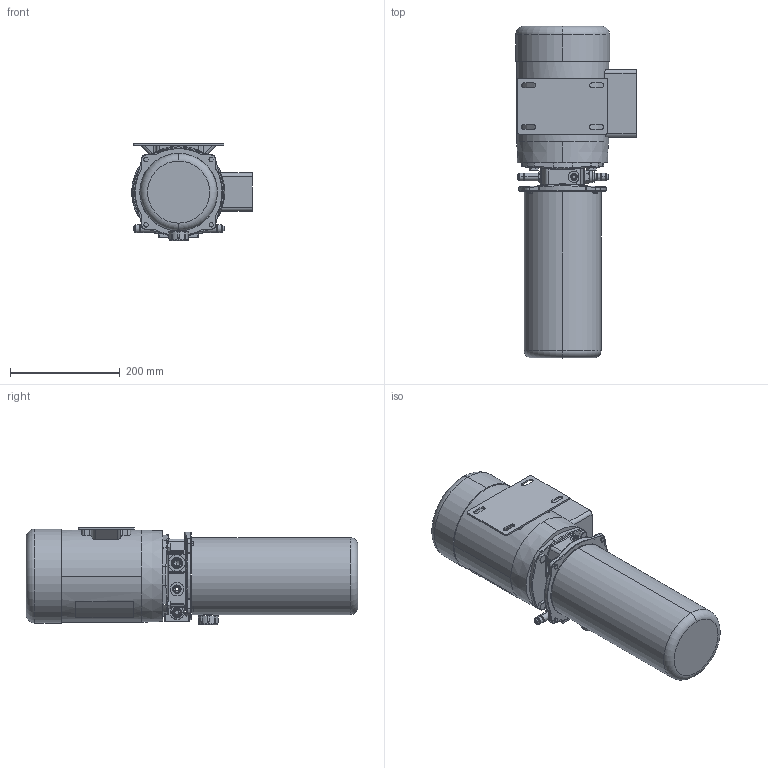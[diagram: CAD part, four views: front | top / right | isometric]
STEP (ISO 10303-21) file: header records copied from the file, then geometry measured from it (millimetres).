
FILE_DESCRIPTION((''),'2;1');
FILE_NAME('550_TY_10_DO_SW0001','2012-02-07T',('da10877'),('OILDYNE'),'PRO/ENGINEER BY PARAMETRIC TECHNOLOGY CORPORATION, 2005380','PRO/ENGINEER BY PARAMETRIC TECHNOLOGY CORPORATION, 2005380','');
FILE_SCHEMA(('CONFIG_CONTROL_DESIGN'));
Length unit declared in the file: inch
Products named in the file (1): 550_TY_10_DO_SW0001
Bounding box: 220.34 x 605.54 x 177.29 mm (x, y, z)
Surface area: 422620.6 mm2 (no closed solid volume)
Topology: 0 solids, 38 shells, 489 faces, 1505 edges, 1024 vertices
Faces by surface type: cylinder 176, plane 159, cone 93, bspline 45, sphere 9, torus 7
Entity records: 20842 total; most frequent: CARTESIAN_POINT 8251, DIRECTION 2486, ORIENTED_EDGE 2453, EDGE_CURVE 1503, VERTEX_POINT 1024, AXIS2_PLACEMENT_3D 967, EDGE_LOOP 554, VECTOR 552
